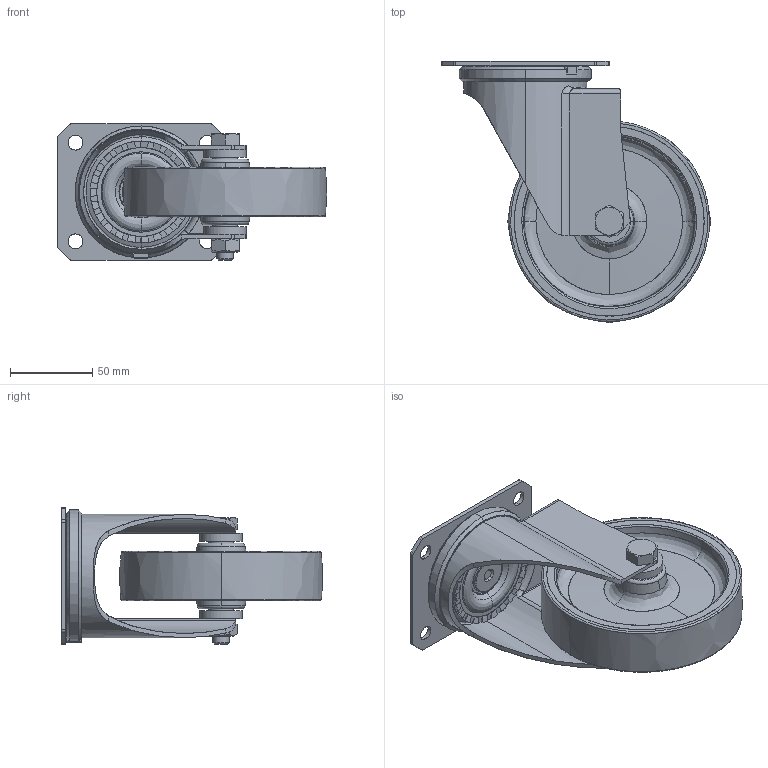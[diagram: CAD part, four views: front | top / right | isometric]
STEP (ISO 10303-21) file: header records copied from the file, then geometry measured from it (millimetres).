
FILE_DESCRIPTION(('STEP AP203'),'2;1');
FILE_NAME('21132_CL.stp','2011-07-28T16:22:20',(''),(''),'2009.3.110','THINKDESIGN','');
FILE_SCHEMA(('CONFIG_CONTROL_DESIGN'));
Length unit declared in the file: millimetre
Bounding box: 163.84 x 158.83 x 83 mm (x, y, z)
Volume: 16226.3 mm3; surface area: 117375.6 mm2
Topology: 5 solids, 5 shells, 366 faces, 2423 edges, 2387 vertices
Faces by surface type: bspline 155, plane 139, cylinder 72
Full cylindrical faces by diameter (mm): 8.376 x1, 10 x1, 11 x1, 15 x1, 16 x2, 26 x2
Entity records: 24017 total; most frequent: CARTESIAN_POINT 15030, COMPOSITE_CURVE_SEGMENT 2313, DIRECTION 1547, TRIMMED_CURVE 804, VECTOR 647, LINE 647, AXIS2_PLACEMENT_3D 450, QUASI_UNIFORM_CURVE 392
